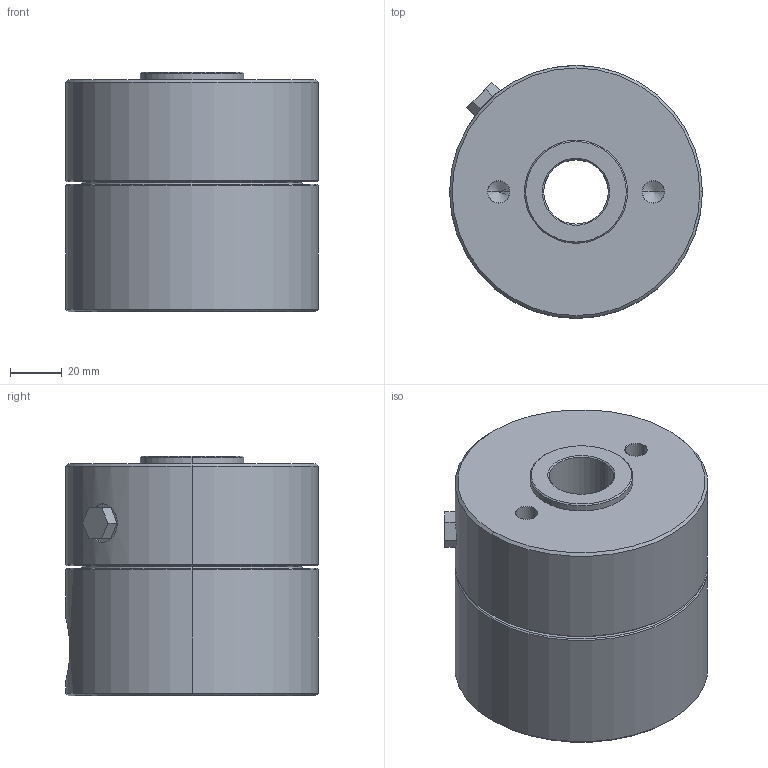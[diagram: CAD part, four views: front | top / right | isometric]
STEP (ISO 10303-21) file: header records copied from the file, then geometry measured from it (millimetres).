
FILE_DESCRIPTION (( 'STEP AP203' ), '1' );
FILE_NAME ('4610-511.STEP', '2016-01-29T10:16:25', ( '' ), ( '' ), 'SwSTEP 2.0', 'SolidWorks 2015', '' );
FILE_SCHEMA (( 'CONFIG_CONTROL_DESIGN' ));
Length unit declared in the file: millimetre
Products named in the file (1): 4610-511
Bounding box: 98 x 98 x 93 mm (x, y, z)
Volume: 628326.3 mm3; surface area: 54925.1 mm2
Topology: 1 solids, 2 shells, 65 faces, 140 edges, 80 vertices
Faces by surface type: cone 26, cylinder 20, plane 15, torus 4
Entity records: 1953 total; most frequent: CARTESIAN_POINT 462, DIRECTION 324, ORIENTED_EDGE 264, EDGE_CURVE 132, AXIS2_PLACEMENT_3D 130, VERTEX_POINT 80, EDGE_LOOP 76, FACE_OUTER_BOUND 65
